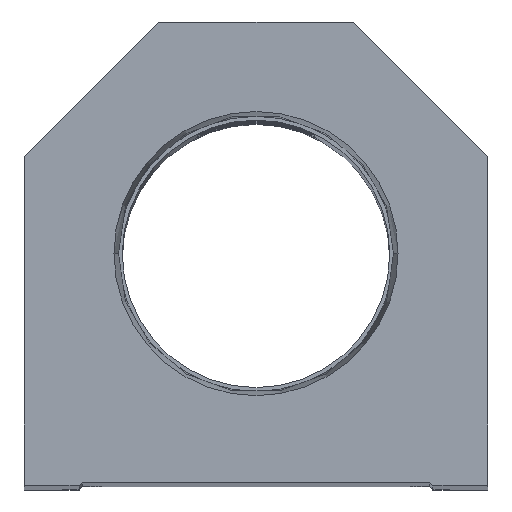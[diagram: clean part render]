
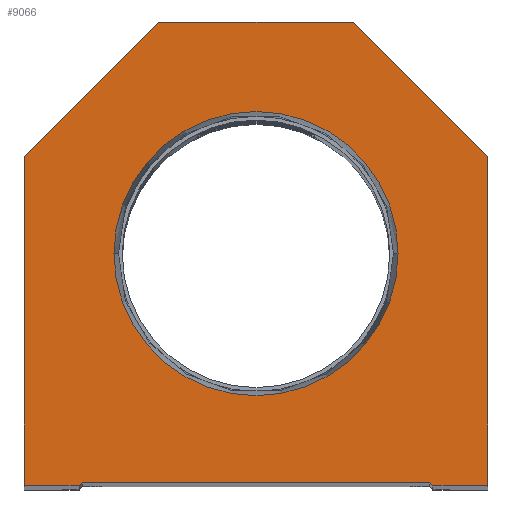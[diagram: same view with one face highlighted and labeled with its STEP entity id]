
A CAD part, top view. The second image highlights one B-rep face of the part: STEP entity #9066.
In plain terms, the highlighted planar face has unit normal (0, 0, 1).
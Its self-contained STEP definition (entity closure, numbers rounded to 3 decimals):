
#131 = ORIENTED_EDGE ( 'NONE', *, *, #12265, .T. ) ;
#182 = VERTEX_POINT ( 'NONE', #8758 ) ;
#280 = VECTOR ( 'NONE', #3385, 1000. ) ;
#322 = VECTOR ( 'NONE', #8904, 1000. ) ;
#349 = EDGE_CURVE ( 'NONE', #182, #16283, #2265, .T. ) ;
#503 = CARTESIAN_POINT ( 'NONE',  ( 29.1, 0., 0. ) ) ;
#594 = EDGE_CURVE ( 'NONE', #3550, #182, #7339, .T. ) ;
#892 = CARTESIAN_POINT ( 'NONE',  ( 38.1, 0., 0. ) ) ;
#907 = CARTESIAN_POINT ( 'NONE',  ( -38.1, 54.1, 0. ) ) ;
#924 = ORIENTED_EDGE ( 'NONE', *, *, #9051, .T. ) ;
#1254 = CARTESIAN_POINT ( 'NONE',  ( -38.1, 0., 0. ) ) ;
#1264 = VERTEX_POINT ( 'NONE', #1254 ) ;
#1309 = VERTEX_POINT ( 'NONE', #4189 ) ;
#1535 = DIRECTION ( 'NONE',  ( 1., 0., 0. ) ) ;
#1565 = CIRCLE ( 'NONE', #13925, 23.374 ) ;
#1604 = VERTEX_POINT ( 'NONE', #503 ) ;
#1908 = EDGE_CURVE ( 'NONE', #1264, #15891, #9384, .T. ) ;
#2241 = DIRECTION ( 'NONE',  ( -0.707, 0.707, 0. ) ) ;
#2265 = LINE ( 'NONE', #907, #322 ) ;
#2275 = EDGE_CURVE ( 'NONE', #1604, #6026, #11517, .T. ) ;
#2332 = LINE ( 'NONE', #10408, #13954 ) ;
#2529 = CIRCLE ( 'NONE', #11996, 23.374 ) ;
#3059 = FACE_OUTER_BOUND ( 'NONE', #8039, .T. ) ;
#3118 = LINE ( 'NONE', #5897, #280 ) ;
#3223 = ORIENTED_EDGE ( 'NONE', *, *, #594, .T. ) ;
#3381 = CARTESIAN_POINT ( 'NONE',  ( -14.55, 14.55, 0. ) ) ;
#3385 = DIRECTION ( 'NONE',  ( 1., 0., 0. ) ) ;
#3550 = VERTEX_POINT ( 'NONE', #12099 ) ;
#3894 = VERTEX_POINT ( 'NONE', #9338 ) ;
#4189 = CARTESIAN_POINT ( 'NONE',  ( -23.374, 38.1, 0. ) ) ;
#4273 = CARTESIAN_POINT ( 'NONE',  ( 28.6, 0.5, 0. ) ) ;
#4361 = ORIENTED_EDGE ( 'NONE', *, *, #9503, .T. ) ;
#4736 = DIRECTION ( 'NONE',  ( -1., 0., 0. ) ) ;
#4837 = CARTESIAN_POINT ( 'NONE',  ( 28.6, 0., 0. ) ) ;
#5106 = VECTOR ( 'NONE', #2241, 1000. ) ;
#5824 = LINE ( 'NONE', #16841, #13096 ) ;
#5897 = CARTESIAN_POINT ( 'NONE',  ( -28.6, 0.5, 0. ) ) ;
#6026 = VERTEX_POINT ( 'NONE', #892 ) ;
#6541 = CARTESIAN_POINT ( 'NONE',  ( -29.1, 0., 0. ) ) ;
#6631 = CARTESIAN_POINT ( 'NONE',  ( 0., 38.1, 0. ) ) ;
#6830 = EDGE_CURVE ( 'NONE', #8366, #1309, #1565, .T. ) ;
#6897 = EDGE_CURVE ( 'NONE', #11464, #1604, #15838, .T. ) ;
#6901 = ORIENTED_EDGE ( 'NONE', *, *, #6830, .F. ) ;
#7329 = CARTESIAN_POINT ( 'NONE',  ( 38.1, 54.1, 0. ) ) ;
#7339 = LINE ( 'NONE', #10058, #7545 ) ;
#7407 = DIRECTION ( 'NONE',  ( 1., 0., 0. ) ) ;
#7544 = VECTOR ( 'NONE', #10167, 1000. ) ;
#7545 = VECTOR ( 'NONE', #4736, 1000. ) ;
#7845 = EDGE_LOOP ( 'NONE', ( #6901, #15586 ) ) ;
#8039 = EDGE_LOOP ( 'NONE', ( #11721, #4361, #9815, #11123, #8148, #924, #131, #3223, #10454, #13451 ) ) ;
#8148 = ORIENTED_EDGE ( 'NONE', *, *, #2275, .T. ) ;
#8151 = DIRECTION ( 'NONE',  ( 0., 0., 1. ) ) ;
#8241 = FACE_BOUND ( 'NONE', #7845, .T. ) ;
#8366 = VERTEX_POINT ( 'NONE', #15968 ) ;
#8453 = EDGE_CURVE ( 'NONE', #16283, #1264, #2332, .T. ) ;
#8758 = CARTESIAN_POINT ( 'NONE',  ( -16., 76.2, 0. ) ) ;
#8861 = DIRECTION ( 'NONE',  ( 0.707, 0.707, 0. ) ) ;
#8874 = LINE ( 'NONE', #7329, #5106 ) ;
#8904 = DIRECTION ( 'NONE',  ( -0.707, -0.707, 0. ) ) ;
#9051 = EDGE_CURVE ( 'NONE', #6026, #11529, #5824, .T. ) ;
#9066 = ADVANCED_FACE ( 'NONE', ( #8241, #3059 ), #11217, .T. ) ;
#9338 = CARTESIAN_POINT ( 'NONE',  ( -28.6, 0.5, 0. ) ) ;
#9384 = LINE ( 'NONE', #13531, #14544 ) ;
#9503 = EDGE_CURVE ( 'NONE', #15891, #3894, #10217, .T. ) ;
#9810 = CARTESIAN_POINT ( 'NONE',  ( -38.1, 54.1, 0. ) ) ;
#9815 = ORIENTED_EDGE ( 'NONE', *, *, #17132, .T. ) ;
#10044 = CARTESIAN_POINT ( 'NONE',  ( 38.1, 54.1, 0. ) ) ;
#10058 = CARTESIAN_POINT ( 'NONE',  ( 16., 76.2, 0. ) ) ;
#10167 = DIRECTION ( 'NONE',  ( 1., 0., 0. ) ) ;
#10217 = LINE ( 'NONE', #3381, #10785 ) ;
#10408 = CARTESIAN_POINT ( 'NONE',  ( -38.1, 0., 0. ) ) ;
#10454 = ORIENTED_EDGE ( 'NONE', *, *, #349, .T. ) ;
#10653 = CARTESIAN_POINT ( 'NONE',  ( 14.55, 14.55, 0. ) ) ;
#10785 = VECTOR ( 'NONE', #8861, 1000. ) ;
#11123 = ORIENTED_EDGE ( 'NONE', *, *, #6897, .T. ) ;
#11129 = CARTESIAN_POINT ( 'NONE',  ( 0., 0., 0. ) ) ;
#11217 = PLANE ( 'NONE',  #15414 ) ;
#11464 = VERTEX_POINT ( 'NONE', #4273 ) ;
#11517 = LINE ( 'NONE', #4837, #7544 ) ;
#11529 = VERTEX_POINT ( 'NONE', #10044 ) ;
#11721 = ORIENTED_EDGE ( 'NONE', *, *, #1908, .T. ) ;
#11835 = DIRECTION ( 'NONE',  ( 0.707, -0.707, 0. ) ) ;
#11996 = AXIS2_PLACEMENT_3D ( 'NONE', #6631, #8151, #14963 ) ;
#12026 = DIRECTION ( 'NONE',  ( 0., -1., 0. ) ) ;
#12099 = CARTESIAN_POINT ( 'NONE',  ( 16., 76.2, 0. ) ) ;
#12265 = EDGE_CURVE ( 'NONE', #11529, #3550, #8874, .T. ) ;
#12684 = DIRECTION ( 'NONE',  ( 0., 0., 1. ) ) ;
#13096 = VECTOR ( 'NONE', #13868, 1000. ) ;
#13451 = ORIENTED_EDGE ( 'NONE', *, *, #8453, .T. ) ;
#13531 = CARTESIAN_POINT ( 'NONE',  ( -28.6, 0., 0. ) ) ;
#13868 = DIRECTION ( 'NONE',  ( 0., 1., 0. ) ) ;
#13925 = AXIS2_PLACEMENT_3D ( 'NONE', #15562, #14111, #7407 ) ;
#13954 = VECTOR ( 'NONE', #12026, 1000. ) ;
#14111 = DIRECTION ( 'NONE',  ( 0., 0., 1. ) ) ;
#14544 = VECTOR ( 'NONE', #14994, 1000. ) ;
#14963 = DIRECTION ( 'NONE',  ( 1., 0., 0. ) ) ;
#14994 = DIRECTION ( 'NONE',  ( 1., 0., 0. ) ) ;
#15414 = AXIS2_PLACEMENT_3D ( 'NONE', #11129, #12684, #1535 ) ;
#15562 = CARTESIAN_POINT ( 'NONE',  ( 0., 38.1, 0. ) ) ;
#15586 = ORIENTED_EDGE ( 'NONE', *, *, #15830, .F. ) ;
#15830 = EDGE_CURVE ( 'NONE', #1309, #8366, #2529, .T. ) ;
#15838 = LINE ( 'NONE', #10653, #17340 ) ;
#15891 = VERTEX_POINT ( 'NONE', #6541 ) ;
#15968 = CARTESIAN_POINT ( 'NONE',  ( 23.374, 38.1, 0. ) ) ;
#16283 = VERTEX_POINT ( 'NONE', #9810 ) ;
#16841 = CARTESIAN_POINT ( 'NONE',  ( 38.1, 0., 0. ) ) ;
#17132 = EDGE_CURVE ( 'NONE', #3894, #11464, #3118, .T. ) ;
#17340 = VECTOR ( 'NONE', #11835, 1000. ) ;
